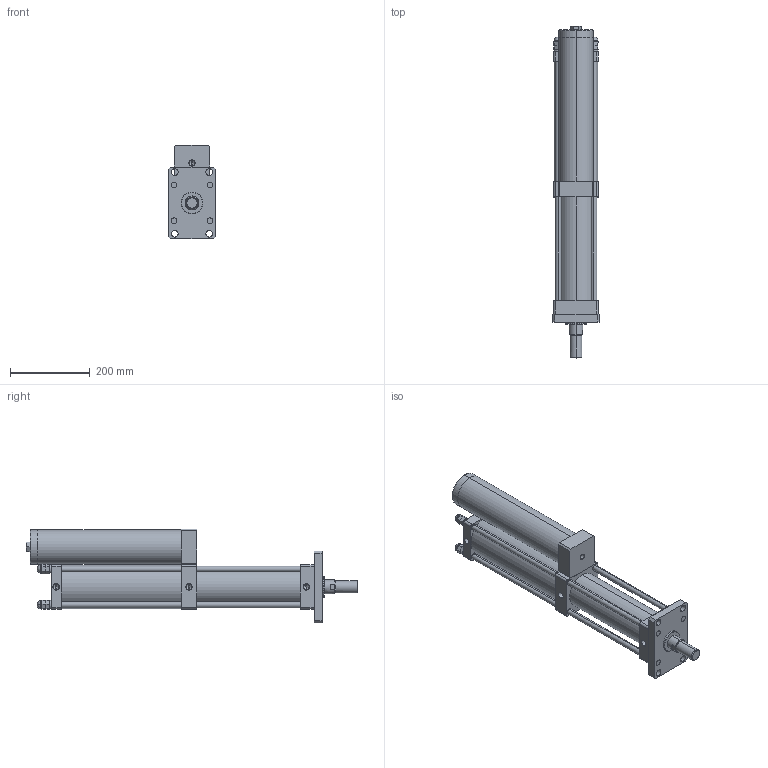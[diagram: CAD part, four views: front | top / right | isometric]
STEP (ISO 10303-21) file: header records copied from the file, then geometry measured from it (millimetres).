
FILE_DESCRIPTION (( 'STEP AP203' ), '1' );
FILE_NAME ('MPT-80-200-15-8T.STEP', '2016-03-11T03:38:26', ( 'WIN' ), ( '' ), 'SwSTEP 2.0', 'SolidWorks 2014', '' );
FILE_SCHEMA (( 'CONFIG_CONTROL_DESIGN' ));
Length unit declared in the file: millimetre
Products named in the file (1): MPT-80-200-15-8T
Bounding box: 118 x 835 x 235 mm (x, y, z)
Volume: 7262298.1 mm3; surface area: 810653.4 mm2
Topology: 20 solids, 20 shells, 400 faces, 968 edges, 562 vertices
Faces by surface type: plane 187, cylinder 90, torus 48, bspline 48, cone 27
Entity records: 12732 total; most frequent: CARTESIAN_POINT 3707, DIRECTION 1901, ORIENTED_EDGE 1804, EDGE_CURVE 902, AXIS2_PLACEMENT_3D 700, VERTEX_POINT 562, VECTOR 501, LINE 501
